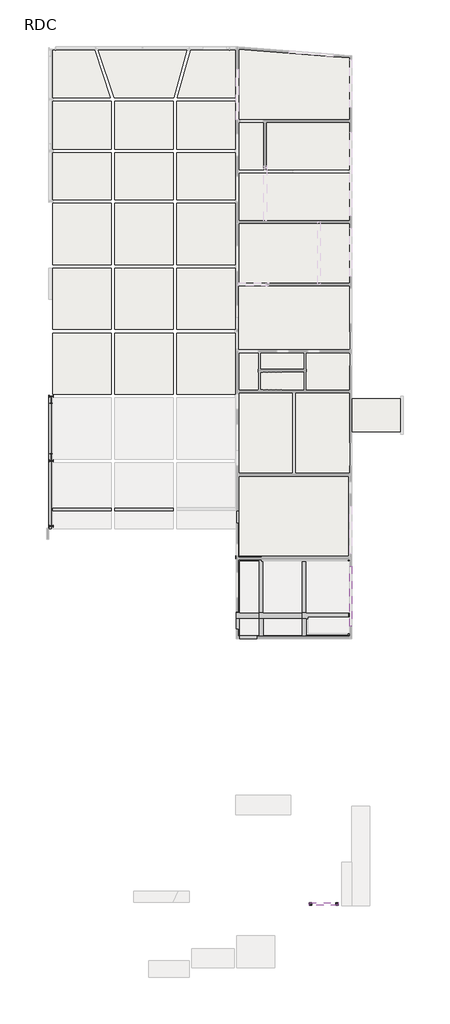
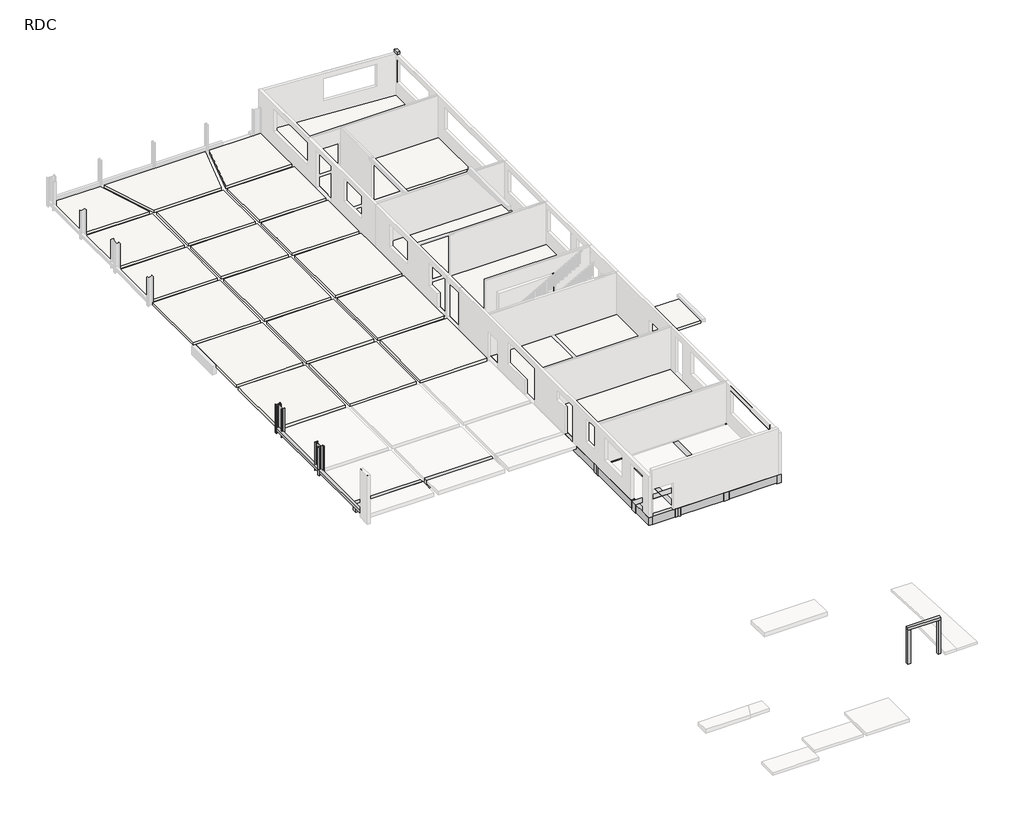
# One storey, part 2 of 4: 32 slabs, 20 beams, 10 columns.
"""IFC4 building model written with IfcOpenShell, lengths in millimetres."""

from ifc_helpers import new_model, si_unit, frame, origin, origin_with_axes, place, context, project, spatial, polyline, outline, extrude, faceted_brep, transform, mapped, element, save
from components import ipe360_f3b70704, ipe600_4712eb6f, poteaux_angle_20_x_35cm_51ce5a96

model = new_model("IFC4")

# Units and contexts
model_context = context("Model", 3, world=origin())
ifc_project = project(units=[si_unit("LENGTHUNIT", "METRE", prefix="MILLI")], contexts=[model_context])

# Site, building, storey
site = spatial("IfcSite", under=ifc_project)
building = spatial("IfcBuilding", under=site)
storey = spatial("IfcBuildingStorey", under=building, Name="RDC", Elevation=0.0)

# Beams
placement = place(None, origin())
element("IfcBeam", 1, ObjectType="Relevé : 20x20h", at=placement, inside=storey, context=model_context, shape_type="Brep", body=[
    faceted_brep([(14769.048278, 35510.1708492, 200.0), (14769.048278, 35510.1708492, 0.0), (14969.048278, 35510.1708492, 0.0), (14969.048278, 35510.1708492, 200.0), (14769.048278, 46463.8708492, 200.0), (14969.048278, 46463.8708492, 200.0), (14969.048278, 46463.8708492, 0.0), (14769.048278, 46463.8708492, 0.0), (14769.048278, 46399.8020807, 0.0), (14769.048278, 40999.8020807, 0.0), (14769.048278, 36949.8020807, 0.0)], [[[0, 1, 2, 3]], [[4, 5, 6, 7]], [[1, 0, 4, 7, 8, 9, 10]], [[2, 1, 10, 9, 8, 7, 6]], [[3, 2, 6, 5]], [[0, 3, 5, 4]]]),
])
element("IfcBeam", 2, ObjectType="Longrine : 30x60h", at=placement, inside=storey, context=model_context, shape_type="Brep", body=[
    faceted_brep([(30339.0482779, 33279.8020807, -600.0), (30339.0482779, 33279.8020807, 0.0), (30339.0482779, 35509.8020807, 0.0), (30339.0482779, 35966.8519337, 0.0), (30339.0482779, 36996.8519337, 0.0), (30339.0482779, 36999.8020807, 0.0), (30339.0482779, 36999.8020807, -250.0), (30339.0482779, 36999.8020807, -600.0), (30639.0482779, 33279.8020807, -600.0), (30591.4411863, 36999.8020807, -600.0), (30591.4411863, 37149.8020807, -600.0), (30639.0482779, 37149.8020807, -600.0), (30639.0482779, 37149.8020807, -250.0), (30639.0482779, 33279.8020807, -250.0), (30589.0482779, 33279.8020807, 0.0), (30589.0482779, 36999.8020807, 0.0), (30589.0482779, 33279.8020807, -250.0), (30589.0482779, 36999.8020807, -250.0), (30591.4411863, 36999.8020807, -250.0), (30591.4411863, 37149.8020807, -250.0)], [[[0, 1, 2, 3, 4, 5, 6, 7]], [[8, 0, 7, 9, 10, 11]], [[8, 11, 12, 13]], [[5, 4, 3, 2, 1, 14, 15]], [[0, 8, 13, 16, 14, 1]], [[7, 6, 5, 15, 17, 18, 9]], [[17, 16, 13, 12, 19, 18]], [[16, 17, 15, 14]], [[11, 10, 19, 12]], [[10, 9, 18, 19]]]),
])
element("IfcBeam", 3, ObjectType="Longrine : 30x60h", at=placement, inside=storey, context=model_context, shape_type="Brep", body=[
    faceted_brep([(30339.0482779, 28499.8020807, -600.0), (30339.0482779, 28499.8020807, 0.0), (30339.0482779, 28618.4806445, 0.0), (30339.0482779, 32779.8020807, 0.0), (30339.0482779, 32779.8020807, -600.0), (30639.0482779, 28499.8020807, -600.0), (30639.0482779, 32779.8020807, -600.0), (30639.0482779, 28499.8020807, 0.0), (30639.0482779, 28499.8020807, -200.0), (30639.0482779, 32779.8020807, -200.0), (30639.0482779, 32779.8020807, 0.0)], [[[0, 1, 2, 3, 4]], [[5, 0, 4, 6]], [[7, 8, 5, 6, 9, 10]], [[1, 7, 10, 3, 2]], [[0, 5, 8, 7, 1]], [[4, 3, 10, 9, 6]]]),
])
element("IfcBeam", 4, ObjectType="Longrine : 30x60h", at=placement, inside=storey, context=model_context, shape_type="Brep", body=[
    faceted_brep([(30639.0482779, 26349.8020807, 0.0), (30639.0482779, 26349.8020807, -600.0), (30639.0482779, 26649.8020807, -600.0), (30639.0482779, 27999.8020807, -600.0), (30639.0482779, 27999.8020807, -200.0), (30639.0482779, 27999.8020807, 0.0), (30639.0482779, 26649.8020807, 0.0), (30339.0482779, 26349.8020807, -600.0), (30339.0482779, 27999.8020807, -600.0), (30339.0482779, 26349.8020807, 0.0), (30339.0482779, 27128.4806445, 0.0), (30339.0482779, 27999.8020807, 0.0), (30539.0482779, 26349.8020807, 0.0)], [[[0, 1, 2, 3, 4, 5, 6]], [[1, 7, 8, 3, 2]], [[7, 9, 10, 11, 8]], [[9, 12, 0, 6, 5, 11, 10]], [[5, 4, 3, 8, 11]], [[1, 0, 12, 9, 7]]]),
])
element("IfcBeam", 5, ObjectType="Longrine : 30x60h", at=placement, inside=storey, context=model_context, shape_type="Brep", body=[
    faceted_brep([(30639.0482779, 26349.8020807, 0.0), (30639.0482779, 26349.8020807, -600.0), (32248.548278, 26349.8020807, -600.0), (32248.548278, 26349.8020807, 0.0), (30639.0482779, 26649.8020807, -600.0), (32248.548278, 26649.8020807, -600.0), (30639.0482779, 26649.8020807, -200.0), (30639.0482779, 26649.8020807, 0.0), (32248.548278, 26649.8020807, 0.0), (32248.548278, 26649.8020807, -200.0)], [[[0, 1, 2, 3]], [[1, 4, 5, 2]], [[4, 6, 7, 8, 9, 5]], [[7, 0, 3, 8]], [[4, 1, 0, 7, 6]], [[3, 2, 5, 9, 8]]]),
])
element("IfcBeam", 6, ObjectType="Longrine : 30x60h", at=placement, inside=storey, context=model_context, shape_type="Brep", body=[
    faceted_brep([(35804.0482778, 26349.8020807, -600.0), (35804.0482778, 26349.8020807, 0.0), (32648.548278, 26349.8020807, 0.0), (32648.548278, 26349.8020807, -600.0), (35804.0482778, 26649.8020807, -600.0), (32648.548278, 26649.8020807, -600.0), (35804.0482778, 26649.8020807, 0.0), (35804.0482778, 26649.8020807, -200.0), (32648.548278, 26649.8020807, -200.0), (32648.548278, 26649.8020807, 0.0)], [[[0, 1, 2, 3]], [[4, 0, 3, 5]], [[6, 7, 4, 5, 8, 9]], [[1, 6, 9, 2]], [[0, 4, 7, 6, 1]], [[3, 2, 9, 8, 5]]]),
])
element("IfcBeam", 7, ObjectType="Longrine : 30x60h", at=placement, inside=storey, context=model_context, shape_type="SweptSolid", body=[
    extrude(outline(polyline([(36204.0482778, 26349.8020807), (36204.0482778, 26649.8020807), (39689.0482781, 26649.8020807), (39689.0482781, 26349.8020807), (36204.0482778, 26349.8020807)])), frame((0.0, 0.0, -600.0), z_axis=(0.0, 0.0, 1.0), x_axis=(1.0, 0.0, 0.0)), (0.0, 0.0, 1.0), 600.0),
])
element("IfcBeam", 8, ObjectType="Longrine : 30x65h", at=placement, inside=storey, context=model_context, shape_type="Brep", body=[
    faceted_brep([(39989.0482781, 33129.8020807, -650.0), (39989.0482781, 33129.8020807, 0.0), (39989.0482781, 26349.8020807, 0.0), (39989.0482781, 26349.8020807, -650.0), (39689.0482781, 33129.8020807, -650.0), (39689.0482781, 26349.8020807, -650.0), (39689.0482781, 27999.8020807, -650.0), (39689.0482781, 28499.8020807, -650.0), (39689.0482781, 32779.8020807, -650.0), (39689.0482781, 33129.8020807, 0.0), (39689.0482781, 26349.8020807, -600.0), (39689.0482781, 26349.8020807, 0.0), (39689.0482781, 26649.8020807, 0.0), (39689.0482781, 26791.5156968, 0.0), (39689.0482781, 26791.5156968, -200.0), (39689.0482781, 27999.8020807, -200.0), (39689.0482781, 28141.5156968, -200.0), (39689.0482781, 28141.5156968, 0.0), (39689.0482781, 28499.8020807, 0.0), (39689.0482781, 28499.8020807, -200.0), (39689.0482781, 32779.8020807, -200.0), (39689.0482781, 32820.2771549, -200.0), (39689.0482781, 32820.2771549, 0.0), (39789.0482781, 33129.8020807, 0.0), (39789.0482781, 32820.2771549, 0.0), (39789.0482781, 28499.8020807, 0.0), (39930.7618942, 28141.5156968, 0.0), (39930.7618942, 26791.5156968, 0.0), (39789.0482781, 26349.8020807, 0.0), (39789.0482781, 28499.8020807, -200.0), (39789.0482781, 32820.2771549, -200.0), (39930.7618942, 26791.5156968, -200.0), (39930.7618942, 28141.5156968, -200.0)], [[[0, 1, 2, 3]], [[4, 0, 3, 5, 6, 7, 8]], [[9, 4, 8, 7, 6, 5, 10, 11, 12, 13, 14, 15, 16, 17, 18, 19, 20, 21, 22]], [[1, 23, 9, 22, 24, 25, 18, 17, 26, 27, 13, 12, 11, 28, 2]], [[1, 0, 4, 9, 23]], [[29, 30, 21, 20, 19]], [[30, 24, 22, 21]], [[30, 29, 25, 24]], [[25, 29, 19, 18]], [[31, 32, 16, 15, 14]], [[32, 26, 17, 16]], [[32, 31, 27, 26]], [[27, 31, 14, 13]], [[3, 2, 28, 11, 10, 5]]]),
])
element("IfcBeam", 9, ObjectType="Longrine : 30x65h", at=placement, inside=storey, context=model_context, shape_type="Brep", body=[
    faceted_brep([(15069.048278, 36949.8020807, 0.0), (15069.048278, 36949.8020807, -250.0), (15069.048278, 36949.8020807, -650.0), (19942.0406356, 36949.8020807, -650.0), (19942.0406356, 36949.8020807, -250.0), (19942.0406356, 36949.8020807, 0.0), (15069.048278, 37249.8020807, -650.0), (19942.0406356, 37249.8020807, -650.0), (15069.048278, 37249.8020807, -200.0), (15069.048278, 37249.8020807, 0.0), (19942.0406356, 37249.8020807, 0.0), (19942.0406356, 37249.8020807, -200.0)], [[[0, 1, 2, 3, 4, 5]], [[2, 6, 7, 3]], [[6, 8, 9, 10, 11, 7]], [[9, 0, 5, 10]], [[2, 1, 0, 9, 8, 6]], [[5, 4, 3, 7, 11, 10]]]),
])
element("IfcBeam", 10, ObjectType="Longrine : 30x65h", at=placement, inside=storey, context=model_context, shape_type="Brep", body=[
    faceted_brep([(20242.0406356, 36949.8020807, 0.0), (20242.0406356, 36949.8020807, -250.0), (20242.0406356, 36949.8020807, -650.0), (25116.0406356, 36949.8020807, -650.0), (25116.0406356, 36949.8020807, -250.0), (25116.0406356, 36949.8020807, 0.0), (20242.0406356, 37249.8020807, -650.0), (25113.6477273, 37249.8020807, -650.0), (25116.0406356, 37249.8020807, -650.0), (20242.0406356, 37249.8020807, -200.0), (20242.0406356, 37249.8020807, 0.0), (25116.0406356, 37249.8020807, 0.0), (25116.0406356, 37249.8020807, -200.0)], [[[0, 1, 2, 3, 4, 5]], [[2, 6, 7, 8, 3]], [[6, 9, 10, 11, 12, 8, 7]], [[10, 0, 5, 11]], [[2, 1, 0, 10, 9, 6]], [[5, 4, 3, 8, 12, 11]]]),
])
element("IfcBeam", 11, ObjectType="Longrine : 40x65h", at=placement, inside=storey, context=model_context, shape_type="Brep", body=[
    faceted_brep([(35804.0482778, 28499.8020807, -650.0), (35804.0482778, 28499.8020807, -200.0), (35804.0482778, 28499.8020807, 0.0), (35804.0482778, 32779.8020807, 0.0), (35804.0482778, 32779.8020807, -200.0), (35804.0482778, 32779.8020807, -650.0), (36204.0482778, 28499.8020807, -650.0), (35964.0482778, 32779.8020807, -650.0), (36204.0482778, 32779.8020807, -650.0), (36204.0482778, 28499.8020807, -200.0), (36204.0482778, 28499.8020807, 0.0), (36204.0482778, 32779.8020807, 0.0), (36204.0482778, 32779.8020807, -200.0), (35964.0482778, 32779.8020807, 0.0)], [[[0, 1, 2, 3, 4, 5]], [[6, 0, 5, 7, 8]], [[2, 1, 0, 6, 9, 10]], [[11, 12, 8, 7, 5, 4, 3, 13]], [[10, 9, 6, 8, 12, 11]], [[2, 10, 11, 13, 3]]]),
    faceted_brep([(36204.0482778, 33279.8020807, -650.0), (36204.0482778, 33282.1949891, -650.0), (36204.0482778, 33282.1949891, -250.0), (36204.0482778, 33279.8020807, -250.0), (35964.0482778, 33282.1949891, -650.0), (35964.0482778, 33282.1949891, -250.0), (35964.0482778, 33279.8020807, -650.0), (35964.0482778, 33279.8020807, -250.0)], [[[0, 1, 2, 3]], [[1, 4, 5, 2]], [[4, 6, 7, 5]], [[6, 0, 3, 7]], [[4, 1, 0, 6]], [[3, 2, 5, 7]]]),
])
element("IfcBeam", 12, ObjectType="Longrine : 40x65h", at=placement, inside=storey, context=model_context, shape_type="Brep", body=[
    faceted_brep([(35804.0482778, 27999.8020807, 0.0), (35804.0482778, 27999.8020807, -200.0), (35804.0482778, 27999.8020807, -650.0), (35804.0482778, 26349.8020807, -650.0), (35804.0482778, 26349.8020807, -600.0), (35804.0482778, 26349.8020807, 0.0), (35804.0482778, 26649.8020807, 0.0), (36204.0482778, 27999.8020807, -650.0), (36204.0482778, 26349.8020807, -650.0), (36204.0482778, 27999.8020807, 0.0), (36204.0482778, 26649.8020807, 0.0), (36204.0482778, 26349.8020807, 0.0), (36204.0482778, 26349.8020807, -600.0)], [[[0, 1, 2, 3, 4, 5, 6]], [[2, 7, 8, 3]], [[7, 9, 10, 11, 12, 8]], [[9, 0, 6, 5, 11, 10]], [[7, 2, 1, 0, 9]], [[5, 4, 3, 8, 12, 11]]]),
])
element("IfcBeam", 13, ObjectType="Longrine : 40x65h", at=placement, inside=storey, context=model_context, shape_type="Brep", body=[
    faceted_brep([(32249.048278, 28499.8020807, -650.0), (32249.048278, 28499.8020807, -200.0), (32249.048278, 28499.8020807, 0.0), (32249.048278, 32820.2771549, 0.0), (32249.048278, 33279.8020807, 0.0), (32249.048278, 33279.8020807, -250.0), (32249.048278, 33279.8020807, -650.0), (32249.048278, 32779.8020807, -650.0), (32449.048278, 33282.1949891, -650.0), (32649.048278, 33282.1949891, -650.0), (32649.048278, 33279.8020807, -650.0), (32449.048278, 33279.8020807, -650.0), (32649.048278, 33282.1949891, -250.0), (32649.048278, 33279.8020807, -250.0), (32649.048278, 28499.8020807, -650.0), (32649.048278, 28499.8020807, -200.0), (32599.548278, 28499.8020807, -200.0), (32599.548278, 28499.8020807, 0.0), (32649.048278, 32779.8020807, -650.0), (32449.048278, 32779.8020807, -650.0), (32449.048278, 32779.8020807, 0.0), (32599.548278, 32779.8020807, 0.0), (32599.548278, 32779.8020807, -200.0), (32649.048278, 32779.8020807, -200.0), (32449.048278, 33282.1949891, -250.0), (32449.048278, 33279.8020807, -250.0), (32449.048278, 33279.8020807, 0.0)], [[[0, 1, 2, 3, 4, 5, 6, 7]], [[8, 9, 10, 11]], [[10, 9, 12, 13]], [[2, 1, 0, 14, 15, 16, 17]], [[18, 19, 20, 21, 22, 23]], [[16, 22, 21, 17]], [[22, 16, 15, 23]], [[9, 8, 24, 12]], [[20, 19, 11, 25, 26]], [[8, 11, 25, 24]], [[11, 6, 5, 4, 26, 25]], [[11, 10, 13, 25]], [[14, 0, 7, 6, 11, 19, 18]], [[15, 14, 18, 23]], [[2, 17, 21, 20, 26, 4, 3]], [[13, 12, 24, 25]]]),
])
element("IfcBeam", 14, ObjectType="Longrine : 40x65h", at=placement, inside=storey, context=model_context, shape_type="Brep", body=[
    faceted_brep([(32248.548278, 26347.4091723, -650.0), (32248.548278, 26347.4091723, 0.0), (32248.548278, 26349.8020807, 0.0), (32248.548278, 26649.8020807, 0.0), (32248.548278, 27999.8020807, 0.0), (32248.548278, 27999.8020807, -200.0), (32248.548278, 27999.8020807, -650.0), (32249.048278, 27999.8020807, -650.0), (32648.548278, 27999.8020807, -650.0), (32648.548278, 26349.8020807, -650.0), (32448.548278, 26349.8020807, -650.0), (32448.548278, 26347.4091723, -650.0), (32648.548278, 27999.8020807, -200.0), (32648.548278, 27999.8020807, 0.0), (32648.548278, 26649.8020807, 0.0), (32648.548278, 26349.8020807, 0.0), (32648.548278, 26349.8020807, -600.0), (32249.048278, 27999.8020807, 0.0), (32448.548278, 26347.4091723, 0.0), (32448.548278, 26349.8020807, 0.0)], [[[0, 1, 2, 3, 4, 5, 6]], [[6, 7, 8, 9, 10, 11, 0]], [[8, 12, 13, 14, 15, 16, 9]], [[13, 17, 4, 3, 2, 1, 18, 19, 15, 14]], [[6, 5, 4, 17, 13, 12, 8, 7]], [[1, 0, 11, 18]], [[10, 19, 18, 11]], [[19, 10, 9, 16, 15]]]),
])
element("IfcBeam", 15, ObjectType="Longrine : 50x65h", at=placement, inside=storey, context=model_context, shape_type="Brep", body=[
    faceted_brep([(39689.0482781, 28499.8020807, 0.0), (39689.0482781, 28499.8020807, -200.0), (39689.0482781, 28499.8020807, -650.0), (36204.0482778, 28499.8020807, -650.0), (35804.0482778, 28499.8020807, -650.0), (35804.0482778, 28499.8020807, 0.0), (36204.0482778, 28499.8020807, 0.0), (39689.0482781, 27999.8020807, -650.0), (36204.0482778, 27999.8020807, -650.0), (35804.0482778, 27999.8020807, -650.0), (35804.0482778, 27999.8020807, 0.0), (39689.0482781, 27999.8020807, -200.0), (36345.7618939, 27999.8020807, -200.0), (36345.7618939, 27999.8020807, 0.0), (36204.0482778, 27999.8020807, 0.0), (36345.7618939, 28141.5156968, 0.0), (39689.0482781, 28141.5156968, 0.0), (39689.0482781, 28141.5156968, -200.0), (36345.7618939, 28141.5156968, -200.0)], [[[0, 1, 2, 3, 4, 5, 6]], [[2, 7, 8, 9, 4, 3]], [[10, 9, 8, 7, 11, 12, 13, 14]], [[5, 10, 14, 13, 15, 16, 0, 6]], [[2, 1, 0, 16, 17, 11, 7]], [[5, 4, 9, 10]], [[17, 18, 12, 11]], [[18, 15, 13, 12]], [[15, 18, 17, 16]]]),
])
element("IfcBeam", 16, ObjectType="Longrine : 50x65h", at=placement, inside=storey, context=model_context, shape_type="Brep", body=[
    faceted_brep([(32249.048278, 28499.8020807, -650.0), (32249.048278, 28499.8020807, 0.0), (32599.548278, 28499.8020807, 0.0), (35804.0482778, 28499.8020807, 0.0), (35804.0482778, 28499.8020807, -200.0), (35804.0482778, 28499.8020807, -650.0), (32649.048278, 28499.8020807, -650.0), (32249.048278, 27999.8020807, -650.0), (35804.0482778, 27999.8020807, -650.0), (32648.548278, 27999.8020807, -650.0), (32249.048278, 27999.8020807, 0.0), (35804.0482778, 27999.8020807, -200.0), (35804.0482778, 27999.8020807, 0.0), (32648.548278, 27999.8020807, 0.0)], [[[0, 1, 2, 3, 4, 5, 6]], [[7, 0, 6, 5, 8, 9]], [[10, 7, 9, 8, 11, 12, 13]], [[1, 10, 13, 12, 3, 2]], [[5, 4, 3, 12, 11, 8]], [[1, 0, 7, 10]]]),
])
element("IfcBeam", 17, ObjectType="Longrine : 50x65h", at=placement, inside=storey, context=model_context, shape_type="Brep", body=[
    faceted_brep([(30339.0482779, 28499.8020807, -650.0), (30339.0482779, 28499.8020807, -600.0), (30339.0482779, 28499.8020807, 0.0), (30639.0482779, 28499.8020807, 0.0), (32249.048278, 28499.8020807, 0.0), (32249.048278, 28499.8020807, -200.0), (32249.048278, 28499.8020807, -650.0), (30339.0482779, 27999.8020807, -650.0), (32249.048278, 27999.8020807, -650.0), (32248.548278, 27999.8020807, -650.0), (30339.0482779, 27999.8020807, 0.0), (30339.0482779, 27999.8020807, -600.0), (32249.048278, 27999.8020807, 0.0), (32248.548278, 27999.8020807, 0.0), (30639.0482779, 27999.8020807, 0.0)], [[[0, 1, 2, 3, 4, 5, 6]], [[7, 0, 6, 8, 9]], [[10, 11, 7, 9, 8, 12, 13, 14]], [[2, 10, 14, 13, 12, 4, 3]], [[2, 1, 0, 7, 11, 10]], [[6, 5, 4, 12, 8]]]),
])
element("IfcBeam", 18, ObjectType="Longrine : 50x65h", at=placement, inside=storey, context=model_context, shape_type="Brep", body=[
    faceted_brep([(30336.6553696, 33279.8020807, -650.0), (30336.6553696, 33279.8020807, 0.0), (30339.0482779, 33279.8020807, 0.0), (30589.0482779, 33279.8020807, 0.0), (32249.048278, 33279.8020807, 0.0), (32249.048278, 33279.8020807, -650.0), (30339.0482779, 32779.8020807, -650.0), (30339.0482779, 33029.8020807, -650.0), (30336.6553696, 33029.8020807, -650.0), (32249.048278, 32779.8020807, -650.0), (30339.0482779, 32779.8020807, 0.0), (30339.0482779, 32779.8020807, -600.0), (32249.048278, 32779.8020807, -200.0), (30639.0482779, 32779.8020807, -200.0), (30639.0482779, 32779.8020807, 0.0), (30339.0482779, 33029.8020807, 0.0), (30639.0482779, 32820.2771549, 0.0), (32249.048278, 32820.2771549, 0.0), (30336.6553696, 33029.8020807, 0.0), (32249.048278, 32820.2771549, -200.0), (30639.0482779, 32820.2771549, -200.0)], [[[0, 1, 2, 3, 4, 5]], [[6, 7, 8, 0, 5, 9]], [[10, 11, 6, 9, 12, 13, 14]], [[15, 10, 14, 16, 17, 4, 3, 2, 1, 18]], [[1, 0, 8, 18]], [[9, 5, 4, 17, 19, 12]], [[7, 6, 11, 10, 15]], [[19, 20, 13, 12]], [[20, 16, 14, 13]], [[20, 19, 17, 16]], [[7, 15, 18, 8]]]),
])
element("IfcBeam", 19, ObjectType="Poutre : Frangement 20x20h", at=placement, inside=storey, context=model_context, shape_type="SweptSolid", body=[
    extrude(outline(polyline([(38839.0482781, 4359.8020807), (38839.0482781, 4159.8020807), (36439.0482781, 4159.8020807), (36439.0482781, 4359.8020807), (38839.0482781, 4359.8020807)])), frame((0.0, 0.0, 2610.0), z_axis=(0.0, 0.0, 1.0), x_axis=(1.0, 0.0, 0.0)), (0.0, 0.0, 1.0), 200.0),
])
element("IfcBeam", 20, ObjectType="Poutre : 20x63h", at=placement, inside=storey, context=model_context, shape_type="SweptSolid", body=[
    extrude(outline(polyline([(39789.0482781, 32391.8519337), (39989.0482781, 32391.8519337), (39989.0482781, 27412.8519337), (39789.0482781, 27412.8519337), (39789.0482781, 32391.8519337)])), frame((0.0, 0.0, 2800.0), z_axis=(0.0, 0.0, 1.0), x_axis=(1.0, 0.0, 0.0)), (0.0, 0.0, 1.0), 400.0),
])

# Columns
element("IfcColumn", 21, ObjectType="Poteau carre : Jambage 20 x 20cm", at=placement, inside=storey, context=model_context, shape_type="SweptSolid", body=[
    extrude(outline(polyline([(36639.0482781, 4359.8020807), (36639.0482781, 4159.8020807), (36439.0482781, 4159.8020807), (36439.0482781, 4359.8020807), (36639.0482781, 4359.8020807)])), origin_with_axes(), (0.0, 0.0, 1.0), 2610.0),
])
element("IfcColumn", 22, ObjectType="Poteau carre : Jambage 20 x 20cm", at=placement, inside=storey, context=model_context, shape_type="SweptSolid", body=[
    extrude(outline(polyline([(38839.0482781, 4359.8020807), (38839.0482781, 4159.8020807), (38639.0482781, 4159.8020807), (38639.0482781, 4359.8020807), (38839.0482781, 4359.8020807)])), origin_with_axes(), (0.0, 0.0, 1.0), 2610.0),
])
element("IfcColumn", 23, ObjectType="Raidisseur-Rectangulaire : 15x15cm", at=placement, inside=storey, context=model_context, shape_type="SweptSolid", body=[
    extrude(outline(polyline([(14744.0, 35514.8060252), (14744.0, 35364.8060252), (14594.0, 35364.8060252), (14594.0, 35514.8060252), (14744.0, 35514.8060252)])), origin_with_axes(), (0.0, 0.0, 1.0), 3730.0),
])
element("IfcColumn", 24, ObjectType="Raidisseur-Rectangulaire : 15x15cm", at=placement, inside=storey, context=model_context, shape_type="SweptSolid", body=[
    extrude(outline(polyline([(14744.0, 34654.8060252), (14594.0, 34654.8060252), (14594.0, 34804.8060252), (14744.0, 34804.8060252), (14744.0, 34654.8060252)])), origin_with_axes(), (0.0, 0.0, 1.0), 3730.0),
])
ipe360_shape = ipe360_f3b70704(model_context)
element("IfcColumn", 25, ObjectType="IPE-Poutrelles-Poteau : IPE360", at=placement, inside=storey, context=model_context, shape_type="MappedRepresentation", body=[
    mapped(ipe360_shape, transform((14949.048278, 46549.8020807, 0.0), x_axis=(0.0, 1.0000000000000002, 0.0), y_axis=(-1.0000000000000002, 0.0, 0.0), z_axis=(0.0, 0.0, 1.0))),
])
element("IfcColumn", 26, ObjectType="IPE-Poutrelles-Poteau : IPE360", at=placement, inside=storey, context=model_context, shape_type="MappedRepresentation", body=[
    mapped(ipe360_shape, transform((14949.048278, 41149.8020807, 0.0), x_axis=(0.0, 1.0000000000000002, 0.0), y_axis=(-1.0000000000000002, 0.0, 0.0), z_axis=(0.0, 0.0, 1.0))),
])
element("IfcColumn", 27, ObjectType="IPE-Poutrelles-Poteau : IPE360", at=placement, inside=storey, context=model_context, shape_type="MappedRepresentation", body=[
    mapped(ipe360_shape, transform((14949.048278, 35734.7694586, 0.0), x_axis=(0.0, -1.0000000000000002, 0.0), y_axis=(1.0000000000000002, 0.0, 0.0), z_axis=(0.0, 0.0, 1.0))),
])
ipe600_shape = ipe600_4712eb6f(model_context)
element("IfcColumn", 28, ObjectType="IPE-Poutrelles-Poteau : IPE600", at=placement, inside=storey, context=model_context, shape_type="MappedRepresentation", body=[
    mapped(ipe600_shape, transform((14949.048278, 41453.8020807, 0.0), x_axis=(1.0, 0.0, 0.0), y_axis=(0.0, 1.0, 0.0), z_axis=(0.0, 0.0, 1.0))),
])
element("IfcColumn", 29, ObjectType="IPE-Poutrelles-Poteau : IPE600", at=placement, inside=storey, context=model_context, shape_type="MappedRepresentation", body=[
    mapped(ipe600_shape, transform((14949.048278, 46245.8020807, 0.0), x_axis=(1.0, 0.0, 0.0), y_axis=(0.0, 1.0, 0.0), z_axis=(0.0, 0.0, 1.0))),
])
poteaux_angle_20_x_35cm_shape = poteaux_angle_20_x_35cm_51ce5a96(model_context)
element("IfcColumn", 30, ObjectType="Poteaux angle : 20 x 35cm", at=placement, inside=storey, context=model_context, shape_type="MappedRepresentation", body=[
    mapped(poteaux_angle_20_x_35cm_shape, transform((0.0, 0.0, 0.0), x_axis=(1.0, 0.0, 0.0), y_axis=(0.0, 1.0, 0.0), z_axis=(0.0, 0.0, 1.0))),
])

# Slabs
element("IfcSlab", 31, ObjectType="Dallage Porteur - Ep 20 cm", at=placement, inside=storey, context=model_context, shape_type="Brep", body=[
    faceted_brep([(30589.0482779, 69599.8020814, -200.0), (30589.0482779, 75325.1214348, -200.0), (30589.0482779, 75425.4335591, -200.0), (35053.9351426, 75072.3903734, -200.0), (39789.0482781, 74697.9801191, -200.0), (39789.0482781, 74597.6679949, -200.0), (39789.0482781, 69599.8020814, -200.0), (39689.0482781, 69599.8020814, -200.0), (30589.0482779, 69599.8020814, 0.0), (35049.0482776, 69599.8020814, 0.0), (39689.0482781, 69599.8020814, 0.0), (39789.0482781, 69599.8020814, 0.0), (39789.0482781, 74597.6679949, 0.0), (39789.0482781, 74697.9801191, 0.0), (35053.9351426, 75072.3903734, 0.0), (30589.0482779, 75425.4335591, 0.0), (30589.0482779, 75325.1214348, 0.0)], [[[0, 1, 2, 3, 4, 5, 6, 7]], [[8, 9, 10, 11, 12, 13, 14, 15, 16]], [[2, 1, 0, 8, 16, 15]], [[4, 3, 2, 15, 14, 13]], [[6, 5, 4, 13, 12, 11]], [[0, 7, 6, 11, 10, 9, 8]]]),
])
element("IfcSlab", 32, ObjectType="Dallage Porteur - Ep 20 cm", at=placement, inside=storey, context=model_context, shape_type="SweptSolid", body=[
    extrude(outline(polyline([(30589.0482779, 65399.8020814), (30589.0482779, 69299.8020814), (32659.0482767, 69299.8020814), (32659.0482767, 65399.8020814), (30589.0482779, 65399.8020814)])), frame((0.0, 0.0, -200.0), z_axis=(0.0, 0.0, 1.0), x_axis=(1.0, 0.0, 0.0)), (0.0, 0.0, 1.0), 200.0),
])
element("IfcSlab", 33, ObjectType="Dallage Porteur - Ep 20 cm", at=placement, inside=storey, context=model_context, shape_type="Brep", body=[
    faceted_brep([(32859.0482767, 65399.8020814, -200.0), (32859.0482767, 69299.8020814, -200.0), (39689.0482781, 69299.8020814, -200.0), (39789.0482781, 69299.8020814, -200.0), (39789.0482781, 65399.8020814, -200.0), (39689.0482781, 65399.8020814, -200.0), (32859.0482767, 65399.8020814, 0.0), (35054.0482776, 65399.8020814, 0.0), (39626.7482776, 65399.8020814, 0.0), (39689.0482781, 65399.8020814, 0.0), (39789.0482781, 65399.8020814, 0.0), (39789.0482781, 69299.8020814, 0.0), (39689.0482781, 69299.8020814, 0.0), (35049.0482776, 69299.8020814, 0.0), (32859.0482767, 69299.8020814, 0.0)], [[[0, 1, 2, 3, 4, 5]], [[6, 7, 8, 9, 10, 11, 12, 13, 14]], [[1, 0, 6, 14]], [[3, 2, 1, 14, 13, 12, 11]], [[0, 5, 4, 10, 9, 8, 7, 6]], [[4, 3, 11, 10]]]),
])
element("IfcSlab", 34, ObjectType="Dallage Porteur - Ep 20 cm", at=placement, inside=storey, context=model_context, shape_type="Brep", body=[
    faceted_brep([(30589.0482779, 61199.8020814, -200.0), (30589.0482779, 65099.8020814, -200.0), (39689.0482781, 65099.8020814, -200.0), (39789.0482781, 65099.8020814, -200.0), (39789.0482781, 61199.8020814, -200.0), (39689.0482781, 61199.8020814, -200.0), (30589.0482779, 61199.8020814, 0.0), (35054.0482776, 61199.8020814, 0.0), (39689.0482781, 61199.8020814, 0.0), (39789.0482781, 61199.8020814, 0.0), (39789.0482781, 65099.8020814, 0.0), (39689.0482781, 65099.8020814, 0.0), (39626.7482776, 65099.8020814, 0.0), (35054.0482776, 65099.8020814, 0.0), (30589.0482779, 65099.8020814, 0.0)], [[[0, 1, 2, 3, 4, 5]], [[6, 7, 8, 9, 10, 11, 12, 13, 14]], [[1, 0, 6, 14]], [[3, 2, 1, 14, 13, 12, 11, 10]], [[0, 5, 4, 9, 8, 7, 6]], [[4, 3, 10, 9]]]),
])
element("IfcSlab", 35, ObjectType="Dallage Porteur - Ep 20 cm", at=placement, inside=storey, context=model_context, shape_type="Brep", body=[
    faceted_brep([(30589.0482779, 55999.8020814, -200.0), (30589.0482779, 60899.8020814, -200.0), (39689.0482781, 60899.8020814, -200.0), (39789.0482781, 60899.8020814, -200.0), (39789.0482781, 55999.8020814, -200.0), (39689.0482781, 55999.8020814, -200.0), (30589.0482779, 55999.8020814, 0.0), (35049.0482776, 55999.8020814, 0.0), (39689.0482781, 55999.8020814, 0.0), (39789.0482781, 55999.8020814, 0.0), (39789.0482781, 60899.8020814, 0.0), (39689.0482781, 60899.8020814, 0.0), (35054.0482776, 60899.8020814, 0.0), (30589.0482779, 60899.8020814, 0.0)], [[[0, 1, 2, 3, 4, 5]], [[6, 7, 8, 9, 10, 11, 12, 13]], [[1, 0, 6, 13]], [[3, 2, 1, 13, 12, 11, 10]], [[0, 5, 4, 9, 8, 7, 6]], [[4, 3, 10, 9]]]),
])
element("IfcSlab", 36, ObjectType="Dallage Porteur - Ep 20 cm", at=placement, inside=storey, context=model_context, shape_type="Brep", body=[
    faceted_brep([(30559.0482779, 50429.8020815, -200.0), (30559.0482779, 55699.8020814, -200.0), (39689.0482781, 55699.8020814, -200.0), (39789.0482781, 55699.8020814, -200.0), (39789.0482781, 50429.8020815, -200.0), (39689.0482781, 50429.8020815, -200.0), (30559.0482779, 50429.8020815, 0.0), (32199.048278, 50429.8020815, 0.0), (35989.0482771, 50429.8020815, 0.0), (39689.0482781, 50429.8020815, 0.0), (39789.0482781, 50429.8020815, 0.0), (39789.0482781, 55699.8020814, 0.0), (39689.0482781, 55699.8020814, 0.0), (35049.0482776, 55699.8020814, 0.0), (30559.0482779, 55699.8020814, 0.0)], [[[0, 1, 2, 3, 4, 5]], [[6, 7, 8, 9, 10, 11, 12, 13, 14]], [[1, 0, 6, 14]], [[3, 2, 1, 14, 13, 12, 11]], [[4, 3, 11, 10]], [[0, 5, 4, 10, 9, 8, 7, 6]]]),
])
element("IfcSlab", 37, ObjectType="Dallage Porteur - Ep 20 cm", at=placement, inside=storey, context=model_context, shape_type="Brep", body=[
    faceted_brep([(30589.0482779, 47079.8020813, -200.0), (30589.0482779, 50129.8020815, -200.0), (32199.048278, 50129.8020815, -200.0), (32199.048278, 47079.8020813, -200.0), (30589.0482779, 47079.8020813, 0.0), (32179.048278, 47079.8020813, 0.0), (32199.048278, 47079.8020813, 0.0), (32199.048278, 50129.8020815, 0.0), (30589.0482779, 50129.8020815, 0.0)], [[[0, 1, 2, 3]], [[4, 5, 6, 7, 8]], [[1, 0, 4, 8]], [[2, 1, 8, 7]], [[3, 2, 7, 6]], [[0, 3, 6, 5, 4]]]),
])
element("IfcSlab", 38, ObjectType="Dallage Porteur - Ep 20 cm", at=placement, inside=storey, context=model_context, shape_type="SweptSolid", body=[
    extrude(outline(polyline([(32399.048278, 48779.8020815), (32399.048278, 50129.8020815), (35989.0482771, 50129.8020815), (35989.0482771, 48779.8020815), (32399.048278, 48779.8020815)])), frame((0.0, 0.0, -200.0), z_axis=(0.0, 0.0, 1.0), x_axis=(1.0, 0.0, 0.0)), (0.0, 0.0, 1.0), 200.0),
])
element("IfcSlab", 39, ObjectType="Dallage Porteur - Ep 20 cm", at=placement, inside=storey, context=model_context, shape_type="SweptSolid", body=[
    extrude(outline(polyline([(32399.048278, 47079.8020813), (32399.048278, 48579.8020815), (35989.0482771, 48579.8020815), (35989.0482771, 47079.8020813), (32399.048278, 47079.8020813)])), frame((0.0, 0.0, -200.0), z_axis=(0.0, 0.0, 1.0), x_axis=(1.0, 0.0, 0.0)), (0.0, 0.0, 1.0), 200.0),
])
element("IfcSlab", 40, ObjectType="Dallage Porteur - Ep 20 cm", at=placement, inside=storey, context=model_context, shape_type="Brep", body=[
    faceted_brep([(36189.0482771, 47079.8020813, -200.0), (36189.0482771, 50129.8020815, -200.0), (38079.048278, 50129.8020815, -200.0), (38279.048278, 50129.8020815, -200.0), (39689.0482781, 50129.8020815, -200.0), (39789.0482781, 50129.8020815, -200.0), (39789.0482781, 47079.8020813, -200.0), (39689.0482781, 47079.8020813, -200.0), (38279.048278, 47079.8020813, -200.0), (38079.048278, 47079.8020813, -200.0), (36189.0482771, 47079.8020813, 0.0), (39689.0482781, 47079.8020813, 0.0), (39789.0482781, 47079.8020813, 0.0), (39789.0482781, 50129.8020815, 0.0), (39689.0482781, 50129.8020815, 0.0), (36189.0482771, 50129.8020815, 0.0)], [[[0, 1, 2, 3, 4, 5, 6, 7, 8, 9]], [[10, 11, 12, 13, 14, 15]], [[1, 0, 10, 15]], [[5, 4, 3, 2, 1, 15, 14, 13]], [[6, 5, 13, 12]], [[0, 9, 8, 7, 6, 12, 11, 10]]]),
])
element("IfcSlab", 41, ObjectType="Dallage Porteur - Ep 20 cm", at=placement, inside=storey, context=model_context, shape_type="Brep", body=[
    faceted_brep([(30589.0482779, 46779.8020813, -200.0), (35014.048278, 46779.8020813, -200.0), (35014.048278, 40149.8020813, -200.0), (30589.0482779, 40149.8020813, -200.0), (30589.0482779, 46779.8020813, 0.0), (30589.0482779, 40149.8020813, 0.0), (35014.048278, 40149.8020813, 0.0), (35014.048278, 46779.8020813, 0.0), (32179.048278, 46779.8020813, 0.0)], [[[0, 1, 2, 3]], [[4, 5, 6, 7, 8]], [[1, 0, 4, 8, 7]], [[2, 1, 7, 6]], [[3, 2, 6, 5]], [[0, 3, 5, 4]]]),
])
element("IfcSlab", 42, ObjectType="Dallage Porteur - Ep 20 cm", at=placement, inside=storey, context=model_context, shape_type="Brep", body=[
    faceted_brep([(39789.0482781, 46779.8020813, -200.0), (39789.0482781, 40149.8020813, -200.0), (39689.0482781, 40149.8020813, -200.0), (35314.048278, 40149.8020813, -200.0), (35314.048278, 46779.8020813, -200.0), (39689.0482781, 46779.8020813, -200.0), (39789.0482781, 46779.8020813, 0.0), (39689.0482781, 46779.8020813, 0.0), (35314.048278, 46779.8020813, 0.0), (35314.048278, 40149.8020813, 0.0), (39689.0482781, 40149.8020813, 0.0), (39789.0482781, 40149.8020813, 0.0)], [[[0, 1, 2, 3, 4, 5]], [[6, 7, 8, 9, 10, 11]], [[1, 0, 6, 11]], [[3, 2, 1, 11, 10, 9]], [[4, 3, 9, 8]], [[0, 5, 4, 8, 7, 6]]]),
])
element("IfcSlab", 43, ObjectType="Dallage Porteur - Ep 25 cm", at=placement, inside=storey, context=model_context, shape_type="Brep", body=[
    faceted_brep([(39689.0482781, 39849.8020813, -250.0), (39689.0482781, 33279.8020807, -250.0), (36204.0482778, 33279.8020807, -250.0), (35964.0482778, 33279.8020807, -250.0), (32649.048278, 33279.8020807, -250.0), (32449.048278, 33279.8020807, -250.0), (30639.0482779, 33279.8020807, -250.0), (30589.0482779, 33279.8020807, -250.0), (30589.0482779, 36999.8020807, -250.0), (30589.0482779, 37149.8020807, -250.0), (30589.0482779, 39849.8020813, -250.0), (39689.0482781, 39849.8020813, 0.0), (35014.048278, 39849.8020813, 0.0), (30589.0482779, 39849.8020813, 0.0), (30589.0482779, 37149.8020807, 0.0), (30589.0482779, 36999.8020807, 0.0), (30589.0482779, 33279.8020807, 0.0), (32249.048278, 33279.8020807, 0.0), (32449.048278, 33279.8020807, 0.0), (35964.0482778, 33279.8020807, 0.0), (39689.0482781, 33279.8020807, 0.0)], [[[0, 1, 2, 3, 4, 5, 6, 7, 8, 9, 10]], [[11, 12, 13, 14, 15, 16, 17, 18, 19, 20]], [[1, 0, 11, 20]], [[7, 6, 5, 4, 3, 2, 1, 20, 19, 18, 17, 16]], [[10, 9, 8, 7, 16, 15, 14, 13]], [[0, 10, 13, 12, 11]]]),
])
element("IfcSlab", 44, ObjectType="Dallage Porteur - Ep 20 cm", at=placement, inside=storey, context=model_context, shape_type="SweptSolid", body=[
    extrude(outline(polyline([(44059.0482776, 46342.7522291), (44059.0482776, 43562.7519336), (39989.0482781, 43562.7519336), (39989.0482781, 46342.7522291), (44059.0482776, 46342.7522291)])), frame((0.0, 0.0, -220.0), z_axis=(0.0, 0.0, 1.0), x_axis=(1.0, 0.0, 0.0)), (0.0, 0.0, 1.0), 200.0),
])
element("IfcSlab", 45, ObjectType="Dallage Porteur - Ep 20 cm ds atelier", at=placement, inside=storey, context=model_context, shape_type="Brep", body=[
    faceted_brep([(19941.5466704, 52099.8020807, -200.0), (15069.048278, 52099.8020807, -200.0), (15069.048278, 57199.8020807, -200.0), (19941.5466704, 57199.8020807, -200.0), (19941.5466704, 52099.8020807, 0.0), (19941.5466704, 57199.8020807, 0.0), (15069.048278, 57199.8020807, 0.0), (15069.048278, 54609.7486113, 0.0), (15069.048278, 52099.8020807, 0.0)], [[[0, 1, 2, 3]], [[4, 5, 6, 7, 8]], [[1, 0, 4, 8]], [[2, 1, 8, 7, 6]], [[3, 2, 6, 5]], [[0, 3, 5, 4]]]),
])
element("IfcSlab", 46, ObjectType="Dallage Porteur - Ep 20 cm ds atelier", at=placement, inside=storey, context=model_context, shape_type="Brep", body=[
    faceted_brep([(25116.0406356, 52099.8020807, -200.0), (20241.5466704, 52099.8020807, -200.0), (20241.5466704, 57199.8020807, -200.0), (25116.0406356, 57199.8020807, -200.0), (25116.0406356, 52099.8020807, 0.0), (25116.0406356, 57199.8020807, 0.0), (20241.5466704, 57199.8020807, 0.0), (20241.5466704, 52099.8020807, 0.0), (20242.0406356, 52099.8020807, 0.0)], [[[0, 1, 2, 3]], [[4, 5, 6, 7, 8]], [[1, 0, 4, 8, 7]], [[2, 1, 7, 6]], [[3, 2, 6, 5]], [[0, 3, 5, 4]]]),
])
element("IfcSlab", 47, ObjectType="Dallage Porteur - Ep 20 cm ds atelier", at=placement, inside=storey, context=model_context, shape_type="Brep", body=[
    faceted_brep([(30289.0482779, 52099.8020807, -200.0), (30239.0482779, 52099.8020807, -200.0), (25416.0406356, 52099.8020807, -200.0), (25416.0406356, 57199.8020807, -200.0), (30289.0482779, 57199.8020807, -200.0), (30289.0482779, 55849.8020814, -200.0), (30289.0482779, 55699.8020814, -200.0), (30289.0482779, 52099.8020807, 0.0), (30289.0482779, 55699.8020814, 0.0), (30289.0482779, 57199.8020807, 0.0), (25416.0406356, 57199.8020807, 0.0), (25416.0406356, 52099.8020807, 0.0), (30239.0482779, 52099.8020807, 0.0)], [[[0, 1, 2, 3, 4, 5, 6]], [[7, 8, 9, 10, 11, 12]], [[2, 1, 0, 7, 12, 11]], [[3, 2, 11, 10]], [[4, 3, 10, 9]], [[0, 6, 5, 4, 9, 8, 7]]]),
])
element("IfcSlab", 48, ObjectType="Dallage Porteur - Ep 20 cm ds atelier", at=placement, inside=storey, context=model_context, shape_type="Brep", body=[
    faceted_brep([(19942.0406356, 46699.8020807, -200.0), (15069.048278, 46699.8020807, -200.0), (15069.048278, 51799.8020807, -200.0), (19941.5466704, 51799.8020807, -200.0), (19942.0406356, 51799.8020807, -200.0), (19942.0406356, 51797.4091723, -200.0), (19942.0406356, 46699.8020807, 0.0), (19942.0406356, 51799.8020807, 0.0), (15069.048278, 51799.8020807, 0.0), (15069.048278, 46699.8020807, 0.0)], [[[0, 1, 2, 3, 4, 5]], [[6, 7, 8, 9]], [[1, 0, 6, 9]], [[2, 1, 9, 8]], [[4, 3, 2, 8, 7]], [[0, 5, 4, 7, 6]]]),
])
element("IfcSlab", 49, ObjectType="Dallage Porteur - Ep 20 cm ds atelier", at=placement, inside=storey, context=model_context, shape_type="Brep", body=[
    faceted_brep([(30289.0482779, 46699.8020807, -200.0), (25416.0406356, 46699.8020807, -200.0), (25416.0406356, 51799.8020807, -200.0), (30239.0482779, 51799.8020807, -200.0), (30289.0482779, 51799.8020807, -200.0), (30289.0482779, 50129.8020815, -200.0), (30289.0482779, 47079.8020813, -200.0), (30289.0482779, 46929.8020813, -200.0), (30289.0482779, 46699.8020807, 0.0), (30289.0482779, 46779.8020813, 0.0), (30289.0482779, 47079.8020813, 0.0), (30289.0482779, 50129.8020815, 0.0), (30289.0482779, 51799.8020807, 0.0), (30239.0482779, 51799.8020807, 0.0), (25416.0406356, 51799.8020807, 0.0), (25416.0406356, 46699.8020807, 0.0)], [[[0, 1, 2, 3, 4, 5, 6, 7]], [[8, 9, 10, 11, 12, 13, 14, 15]], [[1, 0, 8, 15]], [[2, 1, 15, 14]], [[4, 3, 2, 14, 13, 12]], [[0, 7, 6, 5, 4, 12, 11, 10, 9, 8]]]),
])
element("IfcSlab", 50, ObjectType="Dallage Porteur - Ep 20 cm ds atelier", at=placement, inside=storey, context=model_context, shape_type="SweptSolid", body=[
    extrude(outline(polyline([(25116.0406356, 46699.8020807), (20242.0406356, 46699.8020807), (20242.0406356, 51799.8020807), (25116.0406356, 51799.8020807), (25116.0406356, 46699.8020807)])), frame((0.0, 0.0, -200.0), z_axis=(0.0, 0.0, 1.0), x_axis=(1.0, 0.0, 0.0)), (0.0, 0.0, 1.0), 200.0),
])
element("IfcSlab", 51, ObjectType="Dallage Porteur - Ep 20 cm ds atelier", at=placement, inside=storey, context=model_context, shape_type="SweptSolid", body=[
    extrude(outline(polyline([(19941.5466704, 57499.8020807), (15069.048278, 57499.8020807), (15069.048278, 62602.7522291), (19941.5466704, 62602.7522291), (19941.5466704, 57499.8020807)])), frame((0.0, 0.0, -200.0), z_axis=(0.0, 0.0, 1.0), x_axis=(1.0, 0.0, 0.0)), (0.0, 0.0, 1.0), 200.0),
])
element("IfcSlab", 52, ObjectType="Dallage Porteur - Ep 20 cm ds atelier", at=placement, inside=storey, context=model_context, shape_type="SweptSolid", body=[
    extrude(outline(polyline([(25116.0406356, 57499.8020807), (20241.5466704, 57499.8020807), (20241.5466704, 62602.7522291), (25116.0406356, 62602.7522291), (25116.0406356, 57499.8020807)])), frame((0.0, 0.0, -200.0), z_axis=(0.0, 0.0, 1.0), x_axis=(1.0, 0.0, 0.0)), (0.0, 0.0, 1.0), 200.0),
])
element("IfcSlab", 53, ObjectType="Dallage Porteur - Ep 20 cm ds atelier", at=placement, inside=storey, context=model_context, shape_type="Brep", body=[
    faceted_brep([(30289.0482779, 57499.8020807, -200.0), (25416.0406356, 57499.8020807, -200.0), (25416.0406356, 62602.7522291, -200.0), (30289.0482779, 62602.7522291, -200.0), (30289.0482779, 57499.8020807, 0.0), (30289.0482779, 61049.8020814, 0.0), (30289.0482779, 62602.7522291, 0.0), (25416.0406356, 62602.7522291, 0.0), (25416.0406356, 57499.8020807, 0.0)], [[[0, 1, 2, 3]], [[4, 5, 6, 7, 8]], [[1, 0, 4, 8]], [[2, 1, 8, 7]], [[3, 2, 7, 6]], [[0, 3, 6, 5, 4]]]),
])
element("IfcSlab", 54, ObjectType="Dallage Porteur - Ep 20 cm ds atelier", at=placement, inside=storey, context=model_context, shape_type="SweptSolid", body=[
    extrude(outline(polyline([(19942.0406356, 62902.7522291), (15069.048278, 62902.7522291), (15069.048278, 66799.8020807), (19942.0406356, 66799.8020807), (19942.0406356, 62902.7522291)])), frame((0.0, 0.0, -200.0), z_axis=(0.0, 0.0, 1.0), x_axis=(1.0, 0.0, 0.0)), (0.0, 0.0, 1.0), 200.0),
])
element("IfcSlab", 55, ObjectType="Dallage Porteur - Ep 20 cm ds atelier", at=placement, inside=storey, context=model_context, shape_type="Brep", body=[
    faceted_brep([(25116.0406356, 62902.7522291, -200.0), (20242.0406356, 62902.7522291, -200.0), (20241.5466704, 62902.7522291, -200.0), (20241.5466704, 66799.8020807, -200.0), (20242.0406356, 66799.8020807, -200.0), (25116.0406356, 66799.8020807, -200.0), (25116.0406356, 62902.7522291, 0.0), (25116.0406356, 66799.8020807, 0.0), (20242.0406356, 66799.8020807, 0.0), (20241.5466704, 66799.8020807, 0.0), (20241.5466704, 62902.7522291, 0.0)], [[[0, 1, 2, 3, 4, 5]], [[6, 7, 8, 9, 10]], [[2, 1, 0, 6, 10]], [[3, 2, 10, 9]], [[5, 4, 3, 9, 8, 7]], [[0, 5, 7, 6]]]),
])
element("IfcSlab", 56, ObjectType="Dallage Porteur - Ep 20 cm ds atelier", at=placement, inside=storey, context=model_context, shape_type="Brep", body=[
    faceted_brep([(30289.0482779, 62902.7522291, -200.0), (25416.0406356, 62902.7522291, -200.0), (25416.0406356, 66799.8020807, -200.0), (30289.0482779, 66799.8020807, -200.0), (30289.0482779, 62902.7522291, 0.0), (30289.0482779, 65249.8020814, 0.0), (30289.0482779, 66799.8020807, 0.0), (25416.0406356, 66799.8020807, 0.0), (25416.0406356, 62902.7522291, 0.0)], [[[0, 1, 2, 3]], [[4, 5, 6, 7, 8]], [[1, 0, 4, 8]], [[2, 1, 8, 7]], [[3, 2, 7, 6]], [[0, 3, 6, 5, 4]]]),
])
element("IfcSlab", 57, ObjectType="Dallage Porteur - Ep 20 cm ds atelier", at=placement, inside=storey, context=model_context, shape_type="Brep", body=[
    faceted_brep([(25416.0406356, 67099.8020807, -200.0), (25416.0406356, 71099.8020807, -200.0), (30289.0482779, 71099.8020807, -200.0), (30289.0482779, 67099.8020807, -200.0), (25416.0406356, 67099.8020807, 0.0), (30289.0482779, 67099.8020807, 0.0), (30289.0482779, 69449.8020814, 0.0), (30289.0482779, 71099.8020807, 0.0), (25416.0406356, 71099.8020807, 0.0)], [[[0, 1, 2, 3]], [[4, 5, 6, 7, 8]], [[1, 0, 4, 8]], [[2, 1, 8, 7]], [[3, 2, 7, 6, 5]], [[0, 3, 5, 4]]]),
])
element("IfcSlab", 58, ObjectType="Dallage Porteur - Ep 20 cm ds atelier", at=placement, inside=storey, context=model_context, shape_type="SweptSolid", body=[
    extrude(outline(polyline([(20242.0406356, 71099.7694586), (25116.0406356, 71099.7694586), (25116.0406356, 67099.8020807), (20242.0406356, 67099.8020807), (20242.0406356, 71099.7694586)])), frame((0.0, 0.0, -200.0), z_axis=(0.0, 0.0, 1.0), x_axis=(1.0, 0.0, 0.0)), (0.0, 0.0, 1.0), 200.0),
])
element("IfcSlab", 59, ObjectType="Dallage Porteur - Ep 20 cm ds atelier", at=placement, inside=storey, context=model_context, shape_type="SweptSolid", body=[
    extrude(outline(polyline([(15069.048278, 67099.8020807), (15069.048278, 71099.8020807), (19942.0406356, 71099.8020807), (19942.0406356, 67099.8020807), (15069.048278, 67099.8020807)])), frame((0.0, 0.0, -200.0), z_axis=(0.0, 0.0, 1.0), x_axis=(1.0, 0.0, 0.0)), (0.0, 0.0, 1.0), 200.0),
])
element("IfcSlab", 60, ObjectType="Dallage Porteur - Ep 20 cm ds atelier", at=placement, inside=storey, context=model_context, shape_type="SweptSolid", body=[
    extrude(outline(polyline([(15069.048278, 71399.8020807), (15069.048278, 75344.7694586), (18563.3064902, 75344.7694586), (19883.6478526, 71399.8020807), (15069.048278, 71399.8020807)])), frame((0.0, 0.0, -200.0), z_axis=(0.0, 0.0, 1.0), x_axis=(1.0, 0.0, 0.0)), (0.0, 0.0, 1.0), 200.0),
])
element("IfcSlab", 61, ObjectType="Dallage Porteur - Ep 20 cm ds atelier", at=placement, inside=storey, context=model_context, shape_type="Brep", body=[
    faceted_brep([(26240.9368486, 75344.7694586, -200.0), (25151.8400065, 71399.7694586, -200.0), (20242.0406356, 71399.7694586, -200.0), (20200.0154828, 71399.7694586, -200.0), (20199.2146002, 71402.162367, -200.0), (18879.6632021, 75344.7694586, -200.0), (26240.9368486, 75344.7694586, 0.0), (25266.0406356, 75344.7694586, 0.0), (20092.0406356, 75344.7694586, 0.0), (18879.6632021, 75344.7694586, 0.0), (20200.0154828, 71399.7694586, 0.0), (25151.8400065, 71399.7694586, 0.0)], [[[0, 1, 2, 3, 4, 5]], [[6, 7, 8, 9, 10, 11]], [[1, 0, 6, 11]], [[3, 2, 1, 11, 10]], [[5, 4, 3, 10, 9]], [[0, 5, 9, 8, 7, 6]]]),
])
element("IfcSlab", 62, ObjectType="Dallage Porteur - Ep 20 cm ds atelier", at=placement, inside=storey, context=model_context, shape_type="SweptSolid", body=[
    extrude(outline(polyline([(25463.0713234, 71399.8020807), (26552.1591595, 75344.7694586), (30289.0482779, 75344.7694586), (30289.0482779, 71399.8020807), (25463.0713234, 71399.8020807)])), frame((0.0, 0.0, -200.0), z_axis=(0.0, 0.0, 1.0), x_axis=(1.0, 0.0, 0.0)), (0.0, 0.0, 1.0), 200.0),
])

save(model, "model.ifc")
